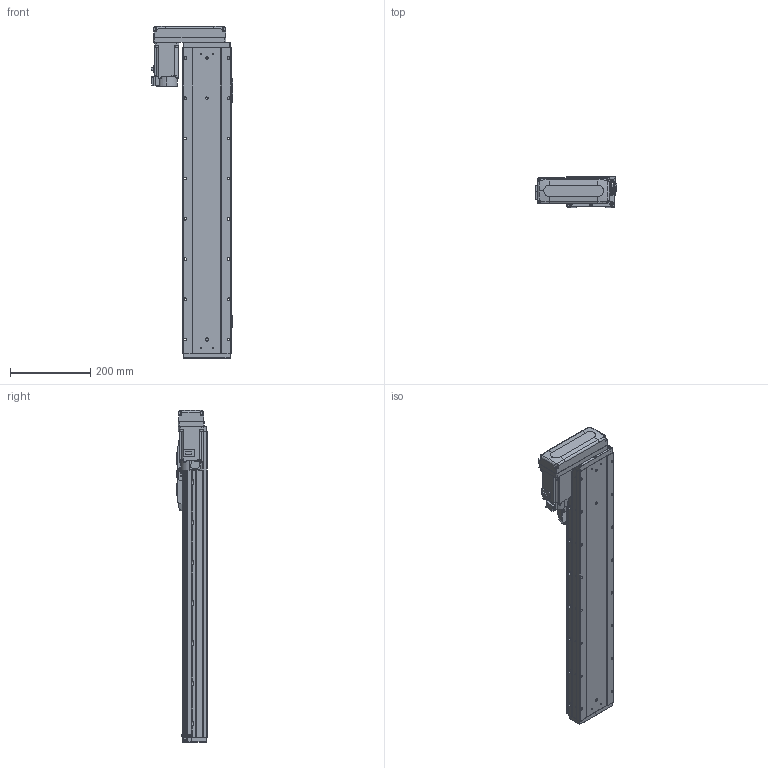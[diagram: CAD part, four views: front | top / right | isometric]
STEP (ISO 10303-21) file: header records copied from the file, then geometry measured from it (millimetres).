
FILE_DESCRIPTION (( 'STEP AP203' ), '1' );
FILE_NAME ('GTH12-550-BR-M40-C4.step', '2023-07-05T00:06:29', ( '微软用户' ), ( '微软中国' ), 'SwSTEP 2.0', 'SolidWorks 2020', '' );
FILE_SCHEMA (( 'CONFIG_CONTROL_DESIGN' ));
Length unit declared in the file: millimetre
Products named in the file (18): GBT 70.1-M5×16; BTH-M3X5X6; GTH120-001_550; GBT 70.3-M3℅8; hg-kn43j_-s100_; GTH120-003; GTH80-022; CTHA86-033_M40B; GTH120-006; GTH80-028; GTH120-027-1_GTH120-027-2; GTH120-004; GTH50-023; GTH12-550-BR-M40-C4; GTH120-013; GTH50-024; GBT 70.1-M3℅6; GBT96.1-2002 3×0.8
Assembly tree (59 placements, depth 2):
  GTH12-550-BR-M40-C4
    GTH120-001_550
    GTH120-003
    GTH120-006
    GTH120-004
    GTH120-013
    GBT 70.1-M3℅6  x14
    GBT 70.1-M5×16  x10
    GBT 70.3-M3℅8  x4
    GTH80-022
    GTH80-028  x2
    GTH50-023  x3
    GTH50-024  x3
    GBT96.1-2002 3×0.8  x6
    BTH-M3X5X6  x8
    hg-kn43j_-s100_
    CTHA86-033_M40B
    GTH120-027-1_GTH120-027-2
Bounding box: 203.5 x 76 x 825.5 mm (x, y, z)
Volume: 6235791.1 mm3; surface area: 595139.9 mm2
Topology: 61 solids, 61 shells, 2428 faces, 5655 edges, 3469 vertices
Faces by surface type: plane 1254, cylinder 698, cone 288, torus 174, sphere 8, bspline 6
Entity records: 45097 total; most frequent: CARTESIAN_POINT 7638, DIRECTION 7455, ORIENTED_EDGE 6920, EDGE_CURVE 3460, AXIS2_PLACEMENT_3D 2607, LINE 2241, VECTOR 2241, VERTEX_POINT 2190
